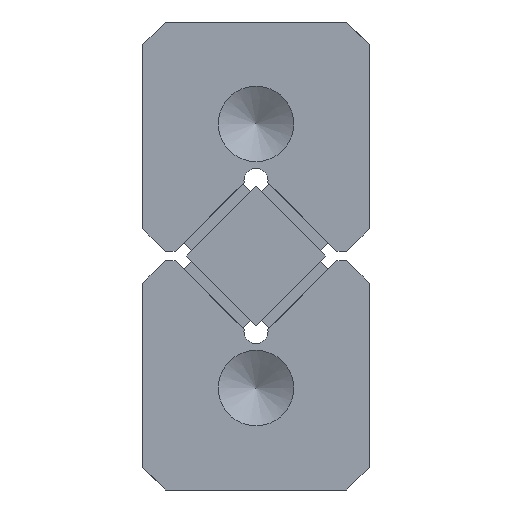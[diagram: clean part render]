
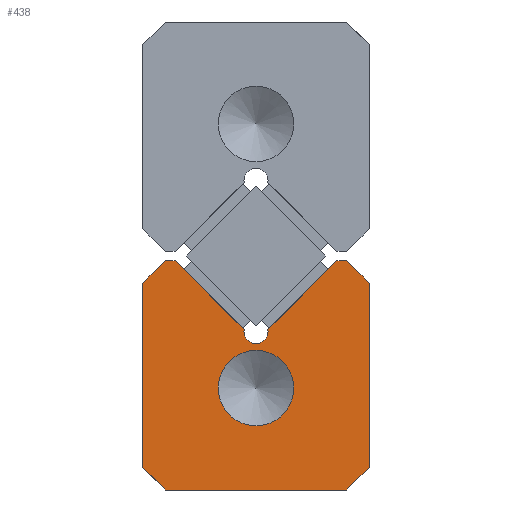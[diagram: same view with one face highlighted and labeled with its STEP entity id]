
A CAD part, left-side view. The second image highlights one B-rep face of the part: STEP entity #438.
In plain terms, the highlighted planar face has unit normal (-1, 0, 0).
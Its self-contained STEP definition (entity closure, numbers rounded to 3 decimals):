
#184=CARTESIAN_POINT('',(0.0,2.5,0.75));
#185=VERTEX_POINT('',#184);
#186=CARTESIAN_POINT('',(0.0,0.0,0.75));
#187=DIRECTION('',(1.0,0.0,0.0));
#188=DIRECTION('',(0.0,1.0,0.0));
#189=AXIS2_PLACEMENT_3D('',#186,#187,#188);
#190=CIRCLE('',#189,2.5);
#191=EDGE_CURVE('',#185,#185,#190,.T.);
#214=CARTESIAN_POINT('',(0.0,-6.,9.2));
#215=VERTEX_POINT('',#214);
#222=CARTESIAN_POINT('',(0.0,-7.5,7.7));
#223=VERTEX_POINT('',#222);
#224=CARTESIAN_POINT('',(0.0,-6.,9.2));
#225=DIRECTION('',(0.0,-0.707,-0.707));
#226=VECTOR('',#225,2.121);
#227=LINE('',#224,#226);
#228=EDGE_CURVE('',#215,#223,#227,.T.);
#245=CARTESIAN_POINT('',(0.0,-7.5,-4.5));
#246=VERTEX_POINT('',#245);
#247=CARTESIAN_POINT('',(0.0,-7.5,7.7));
#248=DIRECTION('',(0.0,0.0,-1.0));
#249=VECTOR('',#248,12.2);
#250=LINE('',#247,#249);
#251=EDGE_CURVE('',#223,#246,#250,.T.);
#347=CARTESIAN_POINT('',(0.0,0.,1.512));
#348=DIRECTION('',(1.0,0.0,0.0));
#349=DIRECTION('',(0.0,0.0,-1.0));
#350=AXIS2_PLACEMENT_3D('',#347,#348,#349);
#351=PLANE('',#350);
#352=ORIENTED_EDGE('',*,*,#228,.F.);
#353=CARTESIAN_POINT('',(0.0,-5.357,9.2));
#354=VERTEX_POINT('',#353);
#355=CARTESIAN_POINT('',(0.0,-5.357,9.2));
#356=DIRECTION('',(0.0,-1.0,0.0));
#357=VECTOR('',#356,0.643);
#358=LINE('',#355,#357);
#359=EDGE_CURVE('',#354,#215,#358,.T.);
#360=ORIENTED_EDGE('',*,*,#359,.F.);
#361=CARTESIAN_POINT('',(0.0,-0.789,4.632));
#362=VERTEX_POINT('',#361);
#363=CARTESIAN_POINT('',(0.0,-0.789,4.632));
#364=DIRECTION('',(0.0,-0.707,0.707));
#365=VECTOR('',#364,6.46);
#366=LINE('',#363,#365);
#367=EDGE_CURVE('',#362,#354,#366,.T.);
#368=ORIENTED_EDGE('',*,*,#367,.F.);
#369=CARTESIAN_POINT('',(0.0,0.789,4.632));
#370=VERTEX_POINT('',#369);
#371=CARTESIAN_POINT('',(0.0,0.0,4.5));
#372=DIRECTION('',(-1.,0.0,0.0));
#373=DIRECTION('',(0.0,0.986,-0.165));
#374=AXIS2_PLACEMENT_3D('',#371,#372,#373);
#375=CIRCLE('',#374,0.8);
#376=EDGE_CURVE('',#370,#362,#375,.T.);
#377=ORIENTED_EDGE('',*,*,#376,.F.);
#378=CARTESIAN_POINT('',(0.0,5.357,9.2));
#379=VERTEX_POINT('',#378);
#380=CARTESIAN_POINT('',(0.0,5.357,9.2));
#381=DIRECTION('',(0.0,-0.707,-0.707));
#382=VECTOR('',#381,6.46);
#383=LINE('',#380,#382);
#384=EDGE_CURVE('',#379,#370,#383,.T.);
#385=ORIENTED_EDGE('',*,*,#384,.F.);
#386=CARTESIAN_POINT('',(0.0,6.,9.2));
#387=VERTEX_POINT('',#386);
#388=CARTESIAN_POINT('',(0.0,6.,9.2));
#389=DIRECTION('',(0.0,-1.0,0.0));
#390=VECTOR('',#389,0.643);
#391=LINE('',#388,#390);
#392=EDGE_CURVE('',#387,#379,#391,.T.);
#393=ORIENTED_EDGE('',*,*,#392,.F.);
#394=CARTESIAN_POINT('',(0.0,7.5,7.7));
#395=VERTEX_POINT('',#394);
#396=CARTESIAN_POINT('',(0.0,7.5,7.7));
#397=DIRECTION('',(0.0,-0.707,0.707));
#398=VECTOR('',#397,2.121);
#399=LINE('',#396,#398);
#400=EDGE_CURVE('',#395,#387,#399,.T.);
#401=ORIENTED_EDGE('',*,*,#400,.F.);
#402=CARTESIAN_POINT('',(0.0,7.5,-4.5));
#403=VERTEX_POINT('',#402);
#404=CARTESIAN_POINT('',(0.0,7.5,-4.5));
#405=DIRECTION('',(0.0,0.0,1.0));
#406=VECTOR('',#405,12.2);
#407=LINE('',#404,#406);
#408=EDGE_CURVE('',#403,#395,#407,.T.);
#409=ORIENTED_EDGE('',*,*,#408,.F.);
#410=CARTESIAN_POINT('',(0.0,6.,-6.));
#411=VERTEX_POINT('',#410);
#412=CARTESIAN_POINT('',(0.0,6.,-6.));
#413=DIRECTION('',(0.0,0.707,0.707));
#414=VECTOR('',#413,2.121);
#415=LINE('',#412,#414);
#416=EDGE_CURVE('',#411,#403,#415,.T.);
#417=ORIENTED_EDGE('',*,*,#416,.F.);
#418=CARTESIAN_POINT('',(0.0,-6.,-6.));
#419=VERTEX_POINT('',#418);
#420=CARTESIAN_POINT('',(0.0,-6.,-6.));
#421=DIRECTION('',(0.0,1.0,0.0));
#422=VECTOR('',#421,12.);
#423=LINE('',#420,#422);
#424=EDGE_CURVE('',#419,#411,#423,.T.);
#425=ORIENTED_EDGE('',*,*,#424,.F.);
#426=CARTESIAN_POINT('',(0.0,-7.5,-4.5));
#427=DIRECTION('',(0.0,0.707,-0.707));
#428=VECTOR('',#427,2.121);
#429=LINE('',#426,#428);
#430=EDGE_CURVE('',#246,#419,#429,.T.);
#431=ORIENTED_EDGE('',*,*,#430,.F.);
#432=ORIENTED_EDGE('',*,*,#251,.F.);
#433=EDGE_LOOP('',(#352,#360,#368,#377,#385,#393,#401,#409,#417,#425,#431,#432));
#434=FACE_OUTER_BOUND('',#433,.T.);
#435=ORIENTED_EDGE('',*,*,#191,.T.);
#436=EDGE_LOOP('',(#435));
#437=FACE_BOUND('',#436,.T.);
#438=ADVANCED_FACE('',(#434,#437),#351,.F.);
